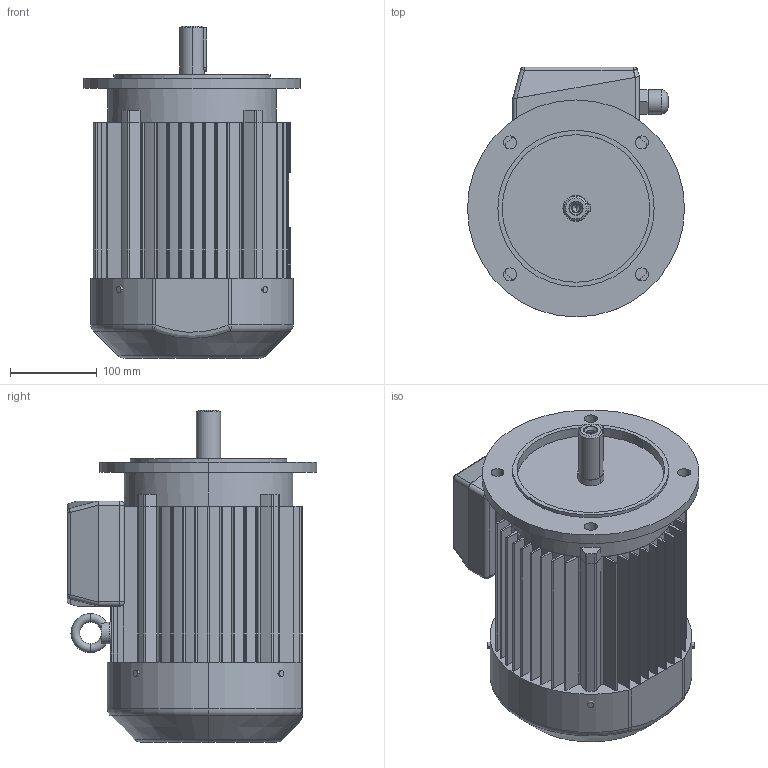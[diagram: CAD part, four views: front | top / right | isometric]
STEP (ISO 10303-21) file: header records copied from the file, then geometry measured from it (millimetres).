
FILE_DESCRIPTION (( 'STEP AP203' ), '1' );
FILE_NAME ('SKg 112M-B5.STEP', '2010-01-27T14:40:18', ( 'INDUKTA' ), ( 'CANTONI MOTOR' ), 'SwSTEP 2.0', 'SolidWorks 2003064', '' );
FILE_SCHEMA (( 'CONFIG_CONTROL_DESIGN' ));
Length unit declared in the file: millimetre
Products named in the file (1): SKg 112M-B5
Bounding box: 250 x 288 x 382.5 mm (x, y, z)
Volume: 12066300.2 mm3; surface area: 747001.5 mm2
Topology: 12 solids, 12 shells, 524 faces, 1418 edges, 914 vertices
Faces by surface type: plane 250, cylinder 196, bspline 43, torus 13, cone 12, sphere 10
Entity records: 20198 total; most frequent: CARTESIAN_POINT 7062, ORIENTED_EDGE 2812, DIRECTION 2639, EDGE_CURVE 1406, VERTEX_POINT 914, AXIS2_PLACEMENT_3D 890, LINE 859, VECTOR 859
